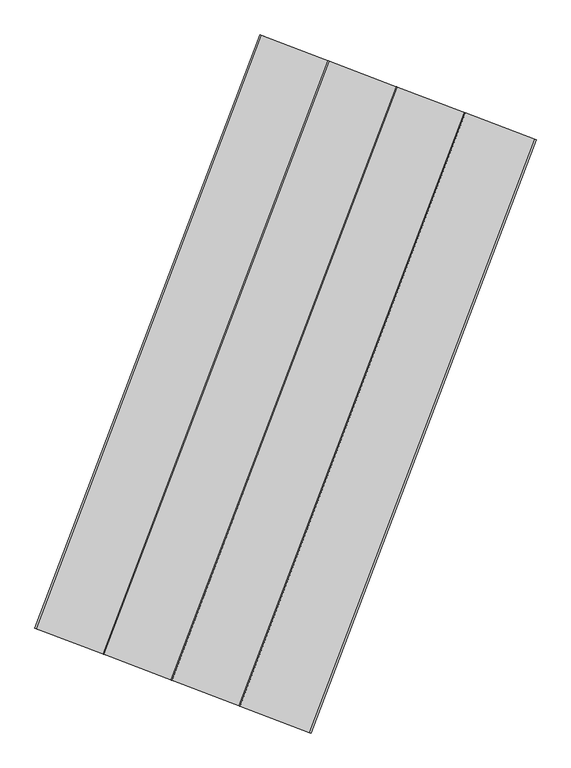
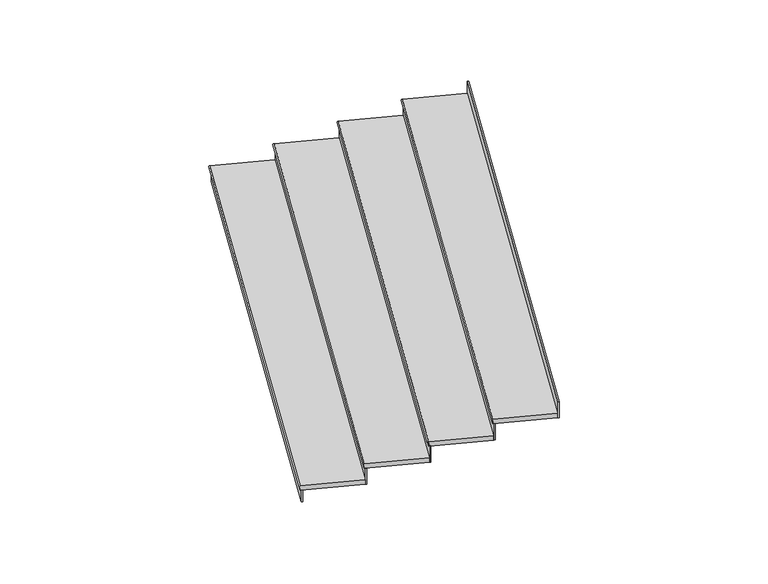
"""IFC4 building model written with IfcOpenShell, lengths in millimetres: stair flight geometry, Wood Steps with 50 mm Tread 20 mm Nosing 13 mm Riser."""

from ifc_helpers import new_model, si_unit, point, frame, frame_2d, origin, place, context, project, spatial, polyline, circle_curve, trimmed, segment, composite_curve, outline, extrude, source, transform, mapped, element, save


def stair_flight_f21a95b3(model_context):
    return source(origin(), model_context, "Body", "SweptSolid", [
        extrude(outline(composite_curve([segment(polyline([(0.0, -598.410772), (0.0, 0.0)]), True, "CONTINUOUS"), segment(trimmed(circle_curve(frame_2d((10.0, 0.0)), 10.0), [point((0.0, 0.0))], [point((20.0, 0.0))], False, "CARTESIAN"), True, "CONTINUOUS"), segment(polyline([(20.0, 0.0), (50.0, 0.0), (50.0, -598.410772), (0.0, -598.410772)]), True, "CONTINUOUS")], self_intersect=False)), frame((945424.2737294, -15021.6545947, 7679.2941176), z_axis=(0.35518306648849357, 0.9347967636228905, 0.0), x_axis=(0.0, 0.0, -1.0)), (0.0, 0.0, 1.0), 5124.0000065),
        extrude(outline(polyline([(945445.3066566, -15029.6462137), (945433.621697, -15025.2064254), (947253.579732, -10235.3078025), (947265.2646916, -10239.7475909), (945445.3066566, -15029.6462137)])), frame((0.0, 0.0, 7500.0), z_axis=(0.0, 0.0, 1.0), x_axis=(1.0, 0.0, 0.0)), (0.0, 0.0, 1.0), 129.2941176),
        extrude(outline(polyline([(945995.3511419, -15238.6397561), (945983.6661824, -15234.1999678), (947803.6242174, -10444.3013449), (947815.3091769, -10448.7411332), (945995.3511419, -15238.6397561)])), frame((0.0, 0.0, 7629.2941176), z_axis=(0.0, 0.0, 1.0), x_axis=(1.0, 0.0, 0.0)), (0.0, 0.0, 1.0), 179.2941176),
        extrude(outline(composite_curve([segment(polyline([(0.0, -598.410772), (0.0, 0.0)]), True, "CONTINUOUS"), segment(trimmed(circle_curve(frame_2d((10.0, 0.0)), 10.0), [point((0.0, 0.0))], [point((20.0, 0.0))], False, "CARTESIAN"), True, "CONTINUOUS"), segment(polyline([(20.0, 0.0), (50.0, 0.0), (50.0, -598.410772), (0.0, -598.410772)]), True, "CONTINUOUS")], self_intersect=False)), frame((945974.3182147, -15230.6481371, 7858.5882353), z_axis=(0.35518306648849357, 0.9347967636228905, 0.0), x_axis=(0.0, 0.0, -1.0)), (0.0, 0.0, 1.0), 5124.0000065),
        extrude(outline(polyline([(946545.3956273, -15447.6332984), (946533.7106677, -15443.1935101), (948353.6687027, -10653.2948872), (948365.3536623, -10657.7346756), (946545.3956273, -15447.6332984)])), frame((0.0, 0.0, 7808.5882353), z_axis=(0.0, 0.0, 1.0), x_axis=(1.0, 0.0, 0.0)), (0.0, 0.0, 1.0), 179.2941176),
        extrude(outline(composite_curve([segment(polyline([(0.0, -598.410772), (0.0, 0.0)]), True, "CONTINUOUS"), segment(trimmed(circle_curve(frame_2d((10.0, 0.0)), 10.0), [point((0.0, 0.0))], [point((20.0, 0.0))], False, "CARTESIAN"), True, "CONTINUOUS"), segment(polyline([(20.0, 0.0), (50.0, 0.0), (50.0, -598.410772), (0.0, -598.410772)]), True, "CONTINUOUS")], self_intersect=False)), frame((946524.3627001, -15439.6416794, 8037.8823529), z_axis=(0.35518306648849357, 0.9347967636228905, 0.0), x_axis=(0.0, 0.0, -1.0)), (0.0, 0.0, 1.0), 5124.0000065),
        extrude(outline(polyline([(947095.4401126, -15656.6268408), (947083.7551531, -15652.1870525), (948903.713188, -10862.2884296), (948915.3981476, -10866.7282179), (947095.4401126, -15656.6268408)])), frame((0.0, 0.0, 7987.8823529), z_axis=(0.0, 0.0, 1.0), x_axis=(1.0, 0.0, 0.0)), (0.0, 0.0, 1.0), 179.2941176),
        extrude(outline(polyline([(947645.4845979, -15865.6203831), (947633.7996384, -15861.1805948), (949453.7576734, -11071.2819719), (949465.4426329, -11075.7217603), (947645.4845979, -15865.6203831)])), frame((0.0, 0.0, 8167.1764706), z_axis=(0.0, 0.0, 1.0), x_axis=(1.0, 0.0, 0.0)), (0.0, 0.0, 1.0), 179.2941176),
        extrude(outline(composite_curve([segment(polyline([(0.0, -598.410772), (0.0, 0.0)]), True, "CONTINUOUS"), segment(trimmed(circle_curve(frame_2d((10.0, 0.0)), 10.0), [point((0.0, 0.0))], [point((20.0, 0.0))], False, "CARTESIAN"), True, "CONTINUOUS"), segment(polyline([(20.0, 0.0), (50.0, 0.0), (50.0, -598.410772), (0.0, -598.410772)]), True, "CONTINUOUS")], self_intersect=False)), frame((947074.4071854, -15648.6352218, 8217.1764706), z_axis=(0.35518306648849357, 0.9347967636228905, 0.0), x_axis=(0.0, 0.0, -1.0)), (0.0, 0.0, 1.0), 5124.0000065),
    ])


if __name__ == "__main__":
    model = new_model("IFC4")
    model_context = context("Model", 3, world=origin())
    ifc_project = project(units=[si_unit("LENGTHUNIT", "METRE", prefix="MILLI")], contexts=[model_context])
    site = spatial("IfcSite", under=ifc_project)
    building = spatial("IfcBuilding", under=site)
    placement = place(None, origin())
    stair_flight_shape = stair_flight_f21a95b3(model_context)
    element("IfcStairFlight", 1, ObjectType="Wood Steps with 50 mm Tread 20 mm Nosing 13 mm Riser", at=placement, inside=building, context=model_context, shape_type="MappedRepresentation", body=[
        mapped(stair_flight_shape, transform((0.0, 0.0, 0.0), x_axis=(1.0, 0.0, 0.0), y_axis=(0.0, 1.0, 0.0), z_axis=(0.0, 0.0, 1.0))),
    ])
    save(model, "model.ifc")
